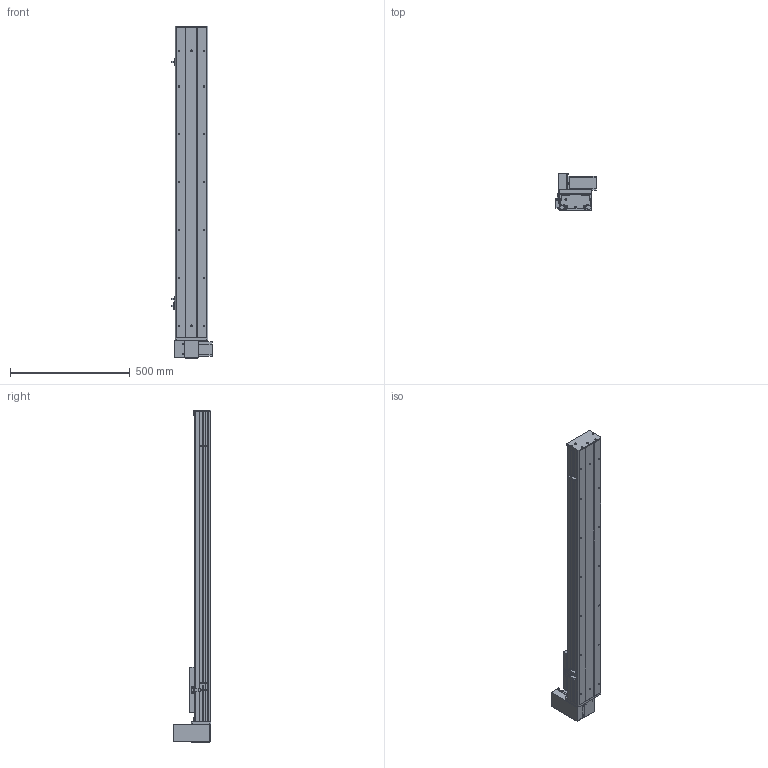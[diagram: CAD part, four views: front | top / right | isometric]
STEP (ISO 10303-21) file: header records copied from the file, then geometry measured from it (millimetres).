
FILE_DESCRIPTION (( 'STEP AP203' ), '1' );
FILE_NAME ('Y135CB-D90-S1000-UR-P400W.STEP', '2020-02-18T04:04:39', ( '微软用户' ), ( '微软中国' ), 'SwSTEP 2.0', 'SolidWorks 2017', '' );
FILE_SCHEMA (( 'CONFIG_CONTROL_DESIGN' ));
Length unit declared in the file: millimetre
Products named in the file (18): C-詩湍揤踡え-陔; Y135CB-耜裔; Y135CB-D90-S1000-UR-P400W; 135CB--詩湍-CE; 135CB---遴掛极.-; Y100-135俋离換覜ん--; 35CB---喘謫眊楊擘啣; Y135C-陔俋离換覜結え-; 0B-埴倛裔啣; 5C--俋欶; 0B-源倛裔啣; C-雄赽釱--; 0B-萇儂楊擘啣; Y10B--々湍喘謫眊--666; san松下电机400不带刹车----; Y10B-耜蚾蟀諉啣----; 5CB --掛极耜裔啣-; 00B-俋欶BM--
Assembly tree (21 placements, depth 2):
  Y135CB-D90-S1000-UR-P400W
    Y135CB-耜裔
    135CB---遴掛极.-
    35CB---喘謫眊楊擘啣
    0B-埴倛裔啣
    0B-源倛裔啣
    0B-萇儂楊擘啣
    san松下电机400不带刹车----
    5CB --掛极耜裔啣-  x2
    C-詩湍揤踡え-陔  x2
    135CB--詩湍-CE
    Y100-135俋离換覜ん--  x3
    Y135C-陔俋离換覜結え-
    5C--俋欶
    C-雄赽釱--
    Y10B--々湍喘謫眊--666
    Y10B-耜蚾蟀諉啣----
    00B-俋欶BM--
Bounding box: 167.5 x 158.7 x 1388 mm (x, y, z)
Volume: 4386452.7 mm3; surface area: 1716220 mm2
Topology: 21 solids, 21 shells, 945 faces, 2527 edges, 1674 vertices
Faces by surface type: cylinder 473, plane 456, cone 16
Entity records: 29349 total; most frequent: DIRECTION 4875, CARTESIAN_POINT 4812, ORIENTED_EDGE 4530, EDGE_CURVE 2265, AXIS2_PLACEMENT_3D 1777, VERTEX_POINT 1502, VECTOR 1321, LINE 1321
